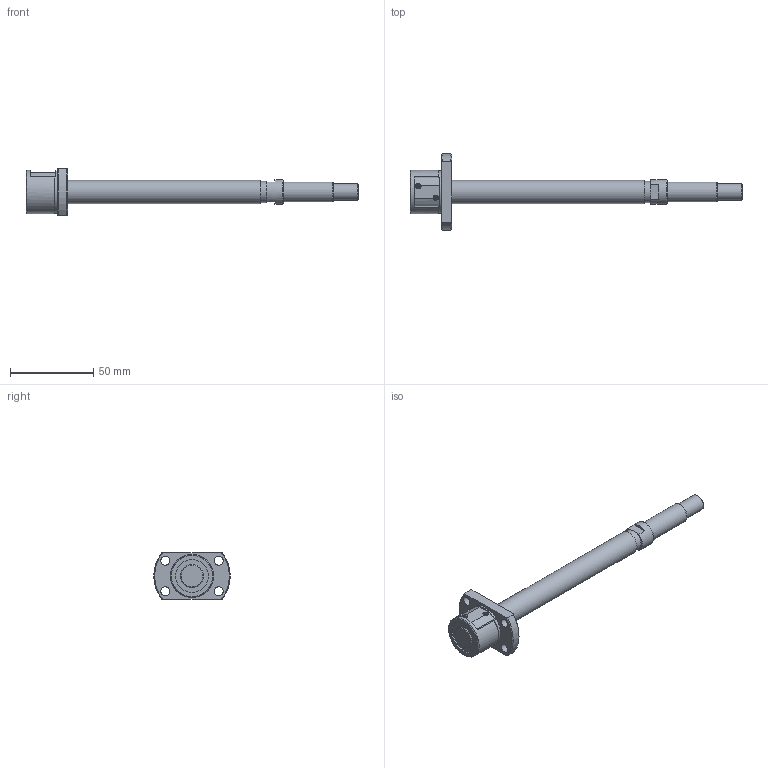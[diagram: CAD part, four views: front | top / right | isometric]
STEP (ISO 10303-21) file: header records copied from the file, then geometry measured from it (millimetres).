
FILE_DESCRIPTION( ( 'STEP AP203' ), '1' );
FILE_NAME( 'e:/temp/worker_97/temp/exporttempdir_5504_1742_Oln9Z/format_0/SG1402-141R200C3A1X(0).stp', '2021-10-19T00:47:53', ( 'License CC BY-ND 4.0' ), ( 'CADENAS' ), ' ', 'PARTsolutions', ' ' );
FILE_SCHEMA( ( 'CONFIG_CONTROL_DESIGN' ) );
Length unit declared in the file: millimetre
Products named in the file (3): SG1402-141R200C3A1X(0); _SG1402-141R200C3A_shaft; _SG1402_nut
Assembly tree (2 placements, depth 2):
  SG1402-141R200C3A1X(0)
    _SG1402-141R200C3A_shaft
    _SG1402_nut
Bounding box: 200 x 46 x 28 mm (x, y, z)
Volume: 40706 mm3; surface area: 14610.9 mm2
Topology: 2 solids, 2 shells, 78 faces, 190 edges, 124 vertices
Faces by surface type: plane 38, cylinder 26, cone 13, torus 1
Full cylindrical faces by diameter (mm): 5.5 x4, 10 x1, 12 x1, 12.77 x1, 14 x2, 15 x1, 20 x2, 25.6 x1, 26 x1
Entity records: 2270 total; most frequent: CARTESIAN_POINT 433, DIRECTION 376, ORIENTED_EDGE 312, AXIS2_PLACEMENT_3D 157, EDGE_CURVE 156, EDGE_LOOP 120, VERTEX_POINT 114, FACE_OUTER_BOUND 93
